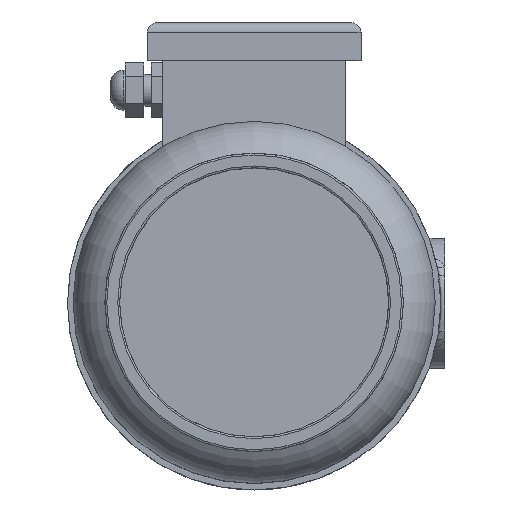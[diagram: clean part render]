
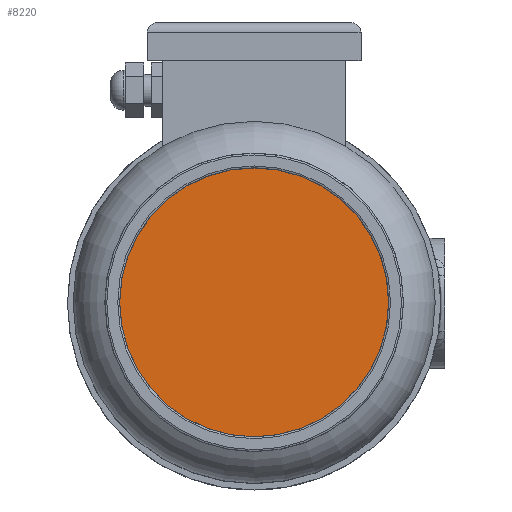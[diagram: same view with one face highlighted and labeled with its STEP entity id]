
A CAD part, top view. The second image highlights one B-rep face of the part: STEP entity #8220.
In plain terms, the highlighted planar face has unit normal (0, 0, 1).
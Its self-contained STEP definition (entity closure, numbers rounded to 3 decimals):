
#568=PLANE('',#9080);
#4075=ORIENTED_EDGE('',*,*,#5271,.F.);
#5271=EDGE_CURVE('',#6078,#6078,#6529,.T.);
#6078=VERTEX_POINT('',#17413);
#6529=CIRCLE('',#9081,72.);
#7098=EDGE_LOOP('',(#4075));
#7672=FACE_BOUND('',#7098,.T.);
#8220=ADVANCED_FACE('',(#7672),#568,.T.);
#9080=AXIS2_PLACEMENT_3D('',#17411,#11303,#11304);
#9081=AXIS2_PLACEMENT_3D('',#17412,#11305,#11306);
#11303=DIRECTION('',(0.,0.,1.));
#11304=DIRECTION('',(1.,0.,0.));
#11305=DIRECTION('',(0.,0.,-1.));
#11306=DIRECTION('',(-1.,0.,0.));
#17411=CARTESIAN_POINT('',(-72.,0.,632.64));
#17412=CARTESIAN_POINT('',(0.,0.,632.64));
#17413=CARTESIAN_POINT('',(-72.,0.,632.64));
